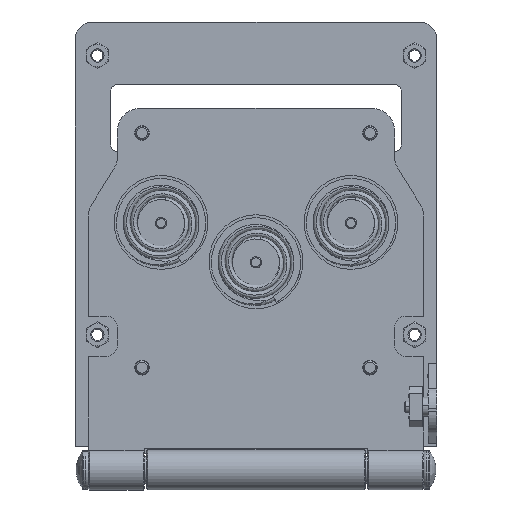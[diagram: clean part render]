
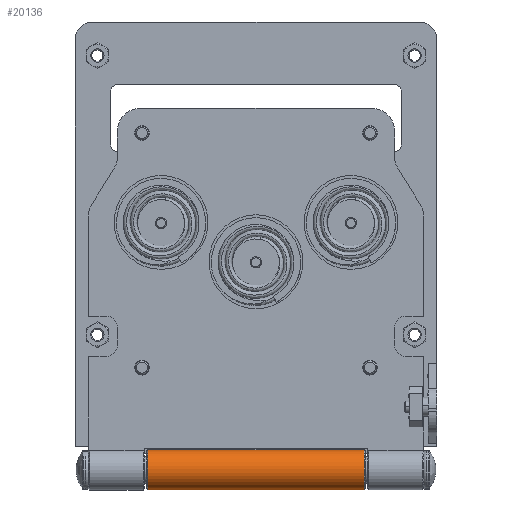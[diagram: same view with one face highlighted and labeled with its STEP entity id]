
A CAD part, front view. The second image highlights one B-rep face of the part: STEP entity #20136.
In plain terms, the highlighted cylindrical face has radius 9 mm (diameter 18 mm), a partial arc.
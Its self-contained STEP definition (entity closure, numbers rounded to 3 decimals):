
#260 = CARTESIAN_POINT ( 'NONE',  ( -48.5, -7.81, -10.904 ) ) ;
#327 = CARTESIAN_POINT ( 'NONE',  ( 48.5, -9., -1.983 ) ) ;
#556 = CARTESIAN_POINT ( 'NONE',  ( 48.5, -10.19, 6.938 ) ) ;
#1433 = DIRECTION ( 'NONE',  ( -1., 0., 0. ) ) ;
#2024 = AXIS2_PLACEMENT_3D ( 'NONE', #18399, #6054, #20478 ) ;
#2221 = EDGE_CURVE ( 'NONE', #4459, #8986, #12650, .T. ) ;
#2414 = DIRECTION ( 'NONE',  ( 0., 0.132, -0.991 ) ) ;
#2916 = DIRECTION ( 'NONE',  ( -1., 0., 0. ) ) ;
#3342 = LINE ( 'NONE', #13768, #8161 ) ;
#3886 = EDGE_LOOP ( 'NONE', ( #18735, #14061, #6565, #16566 ) ) ;
#4459 = VERTEX_POINT ( 'NONE', #14126 ) ;
#4924 = CARTESIAN_POINT ( 'NONE',  ( 49., -7.81, -10.904 ) ) ;
#5018 = CARTESIAN_POINT ( 'NONE',  ( 49., -9., -1.983 ) ) ;
#6054 = DIRECTION ( 'NONE',  ( 1., 0., 0. ) ) ;
#6260 = EDGE_CURVE ( 'NONE', #7147, #8986, #19976, .T. ) ;
#6565 = ORIENTED_EDGE ( 'NONE', *, *, #26108, .T. ) ;
#7147 = VERTEX_POINT ( 'NONE', #14117 ) ;
#7377 = FACE_OUTER_BOUND ( 'NONE', #3886, .T. ) ;
#8161 = VECTOR ( 'NONE', #1433, 1000. ) ;
#8986 = VERTEX_POINT ( 'NONE', #260 ) ;
#10539 = AXIS2_PLACEMENT_3D ( 'NONE', #327, #14740, #2414 ) ;
#12650 = LINE ( 'NONE', #4924, #16192 ) ;
#13168 = EDGE_CURVE ( 'NONE', #4459, #15983, #20693, .T. ) ;
#13768 = CARTESIAN_POINT ( 'NONE',  ( 49., -10.19, 6.938 ) ) ;
#14061 = ORIENTED_EDGE ( 'NONE', *, *, #13168, .T. ) ;
#14117 = CARTESIAN_POINT ( 'NONE',  ( -48.5, -10.19, 6.938 ) ) ;
#14126 = CARTESIAN_POINT ( 'NONE',  ( 48.5, -7.81, -10.904 ) ) ;
#14740 = DIRECTION ( 'NONE',  ( -1., 0., 0. ) ) ;
#15735 = AXIS2_PLACEMENT_3D ( 'NONE', #5018, #2916, #17337 ) ;
#15983 = VERTEX_POINT ( 'NONE', #556 ) ;
#16192 = VECTOR ( 'NONE', #23465, 1000. ) ;
#16566 = ORIENTED_EDGE ( 'NONE', *, *, #6260, .T. ) ;
#17337 = DIRECTION ( 'NONE',  ( 0., -0.132, 0.991 ) ) ;
#18399 = CARTESIAN_POINT ( 'NONE',  ( -48.5, -9., -1.983 ) ) ;
#18735 = ORIENTED_EDGE ( 'NONE', *, *, #2221, .F. ) ;
#19976 = CIRCLE ( 'NONE', #2024, 9. ) ;
#20136 = ADVANCED_FACE ( 'NONE', ( #7377 ), #23169, .T. ) ;
#20478 = DIRECTION ( 'NONE',  ( 0., 0.132, -0.991 ) ) ;
#20693 = CIRCLE ( 'NONE', #10539, 9. ) ;
#23169 = CYLINDRICAL_SURFACE ( 'NONE', #15735, 9. ) ;
#23465 = DIRECTION ( 'NONE',  ( -1., 0., 0. ) ) ;
#26108 = EDGE_CURVE ( 'NONE', #15983, #7147, #3342, .T. ) ;
